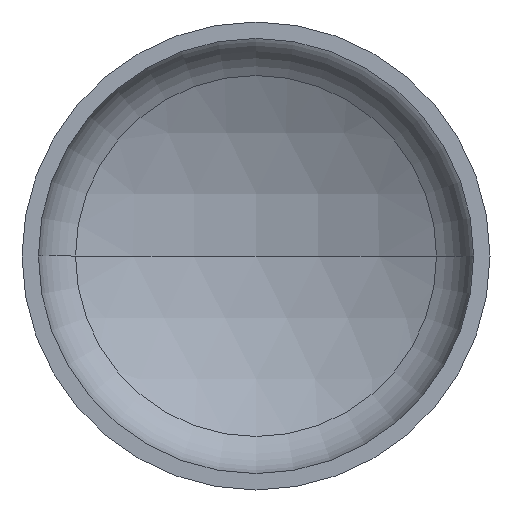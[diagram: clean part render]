
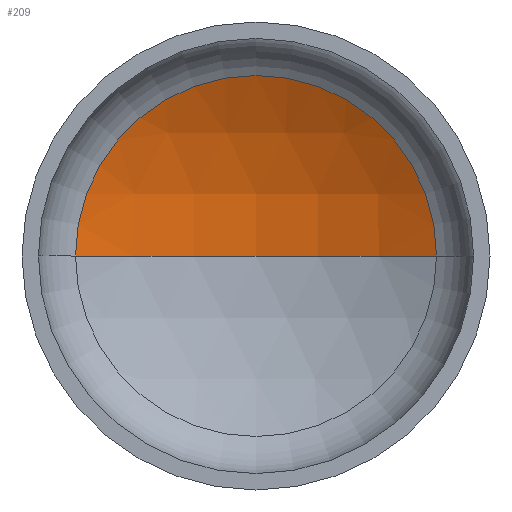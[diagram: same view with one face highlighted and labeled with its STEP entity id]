
A CAD part, front view. The second image highlights one B-rep face of the part: STEP entity #209.
In plain terms, the highlighted spherical face has radius 1280 mm.
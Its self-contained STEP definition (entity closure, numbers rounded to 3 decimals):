
#5 = AXIS2_PLACEMENT_3D ( 'NONE', #141, #158, #159 ) ;
#16 = EDGE_LOOP ( 'NONE', ( #91, #76, #27 ) ) ;
#22 = CARTESIAN_POINT ( 'NONE',  ( -617.121, 334.645, 0. ) ) ;
#27 = ORIENTED_EDGE ( 'NONE', *, *, #373, .T. ) ;
#36 = AXIS2_PLACEMENT_3D ( 'NONE', #207, #377, #227 ) ;
#76 = ORIENTED_EDGE ( 'NONE', *, *, #371, .T. ) ;
#86 = VERTEX_POINT ( 'NONE', #241 ) ;
#91 = ORIENTED_EDGE ( 'NONE', *, *, #349, .F. ) ;
#127 = VERTEX_POINT ( 'NONE', #138 ) ;
#138 = CARTESIAN_POINT ( 'NONE',  ( 617.121, 334.645, 0. ) ) ;
#141 = CARTESIAN_POINT ( 'NONE',  ( 0., -786.766, 0. ) ) ;
#142 = DIRECTION ( 'NONE',  ( 1., 0., 0. ) ) ;
#149 = CARTESIAN_POINT ( 'NONE',  ( 0., 334.645, 0. ) ) ;
#158 = DIRECTION ( 'NONE',  ( 0., 0., 1. ) ) ;
#159 = DIRECTION ( 'NONE',  ( 1., 0., 0. ) ) ;
#170 = DIRECTION ( 'NONE',  ( 0., 0., -1. ) ) ;
#177 = VERTEX_POINT ( 'NONE', #22 ) ;
#207 = CARTESIAN_POINT ( 'NONE',  ( 0., -786.766, 0. ) ) ;
#209 = ADVANCED_FACE ( 'NONE', ( #382 ), #389, .F. ) ;
#216 = CIRCLE ( 'NONE', #379, 617.121 ) ;
#221 = CIRCLE ( 'NONE', #5, 1280. ) ;
#227 = DIRECTION ( 'NONE',  ( -1., 0., 0. ) ) ;
#241 = CARTESIAN_POINT ( 'NONE',  ( 0., 493.234, 0. ) ) ;
#310 = DIRECTION ( 'NONE',  ( 0., -1., 0. ) ) ;
#322 = AXIS2_PLACEMENT_3D ( 'NONE', #383, #170, #336 ) ;
#336 = DIRECTION ( 'NONE',  ( -1., 0., 0. ) ) ;
#345 = CIRCLE ( 'NONE', #322, 1280. ) ;
#349 = EDGE_CURVE ( 'NONE', #86, #177, #221, .T. ) ;
#371 = EDGE_CURVE ( 'NONE', #86, #127, #345, .T. ) ;
#373 = EDGE_CURVE ( 'NONE', #127, #177, #216, .T. ) ;
#377 = DIRECTION ( 'NONE',  ( 0., 0., -1. ) ) ;
#379 = AXIS2_PLACEMENT_3D ( 'NONE', #149, #310, #142 ) ;
#382 = FACE_OUTER_BOUND ( 'NONE', #16, .T. ) ;
#383 = CARTESIAN_POINT ( 'NONE',  ( 0., -786.766, 0. ) ) ;
#389 = SPHERICAL_SURFACE ( 'NONE', #36, 1280. ) ;
